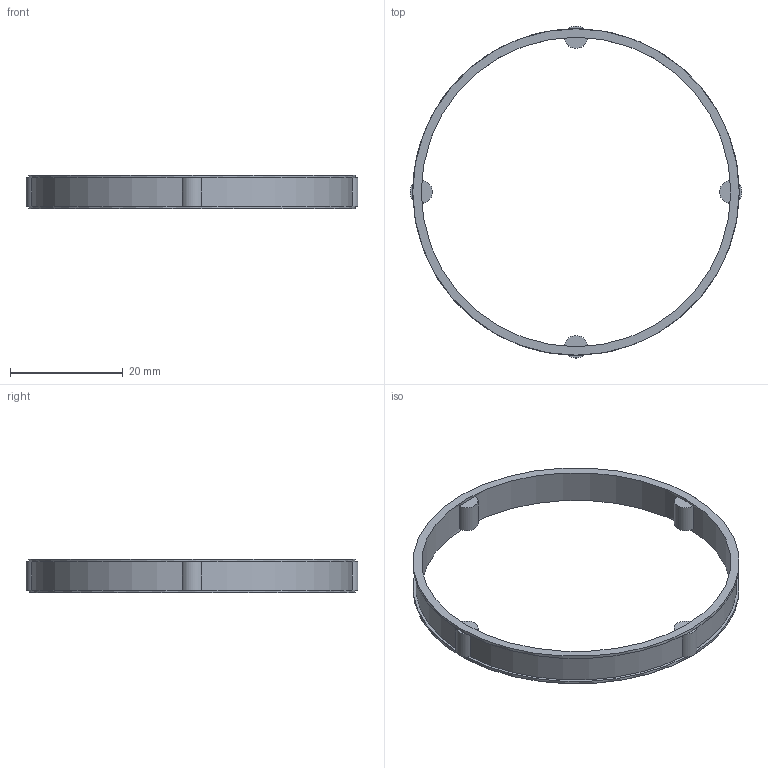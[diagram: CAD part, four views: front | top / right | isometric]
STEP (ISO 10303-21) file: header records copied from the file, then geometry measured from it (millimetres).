
FILE_DESCRIPTION(/* description */ (''),/* implementation_level */ '2;1');
FILE_NAME(/* name */ '302773 RL 459 - 4.stp',/* time_stamp */ '2016-11-10T15:39:19+01:00',/* author */ (''),/* organization */ (''),/* preprocessor_version */ 'ST-DEVELOPER v15',/* originating_system */ 'SIEMENS PLM Software NX 8.5',/* authorisation */ '');
FILE_SCHEMA (('CONFIG_CONTROL_DESIGN'));
Length unit declared in the file: millimetre
Products named in the file (1): ATE0000098_01
Bounding box: 58.99 x 58.99 x 6 mm (x, y, z)
Volume: 1320 mm3; surface area: 2930.2 mm2
Topology: 1 solids, 1 shells, 41 faces, 92 edges, 56 vertices
Faces by surface type: plane 26, cylinder 15
Full cylindrical faces by diameter (mm): 55 x1, 58 x2
Entity records: 1198 total; most frequent: DIRECTION 236, CARTESIAN_POINT 178, ORIENTED_EDGE 168, AXIS2_PLACEMENT_3D 110, EDGE_CURVE 84, CIRCLE 68, VERTEX_POINT 52, EDGE_LOOP 50
